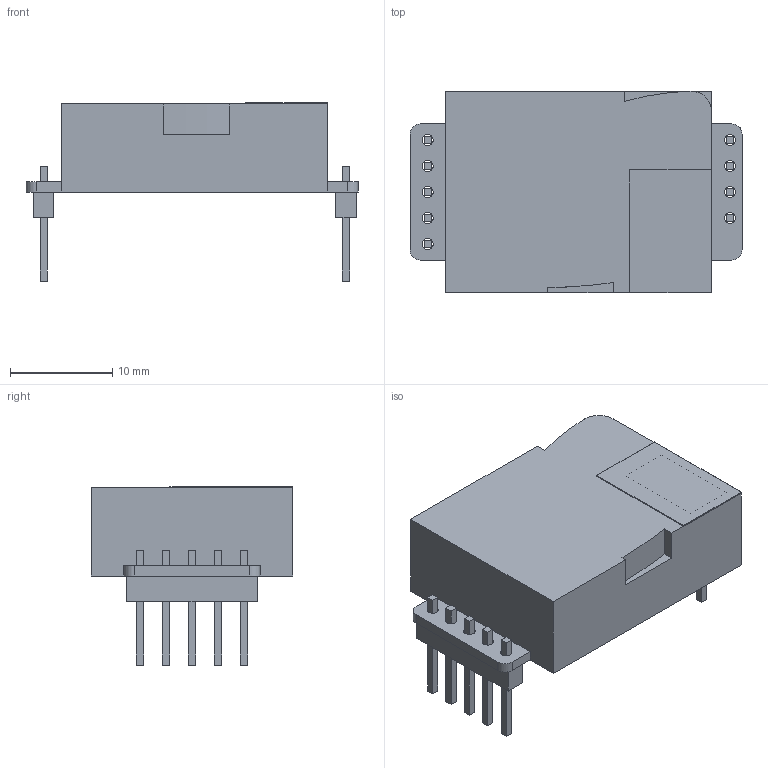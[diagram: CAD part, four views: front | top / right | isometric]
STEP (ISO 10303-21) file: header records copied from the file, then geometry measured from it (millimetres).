
FILE_DESCRIPTION(/* description */ (''),/* implementation_level */ '2;1');
FILE_NAME(/* name */ 'C:/Users/mak/Desktop/乾燥実験/KiCAD/部品図面/MHZ19C v4.step',/* time_stamp */ '2022-05-09T21:29:23+09:00',/* author */ (''),/* organization */ (''),/* preprocessor_version */ 'ST-DEVELOPER v18.1',/* originating_system */ 'Autodesk Translation Framework v10.14.0.1471',/* authorisation */ '');
FILE_SCHEMA (('AUTOMOTIVE_DESIGN { 1 0 10303 214 3 1 1 }'));
Length unit declared in the file: millimetre
Products named in the file (1): MHZ19C
Bounding box: 32.43 x 19.7 x 17.4 mm (x, y, z)
Volume: 1788.3 mm3; surface area: 4299.5 mm2
Topology: 14 solids, 14 shells, 149 faces, 362 edges, 240 vertices
Faces by surface type: plane 118, cylinder 31
Full cylindrical faces by diameter (mm): 1.1 x18
Entity records: 4466 total; most frequent: CARTESIAN_POINT 752, ORIENTED_EDGE 724, DIRECTION 724, EDGE_CURVE 362, LINE 300, VECTOR 300, VERTEX_POINT 240, AXIS2_PLACEMENT_3D 212
